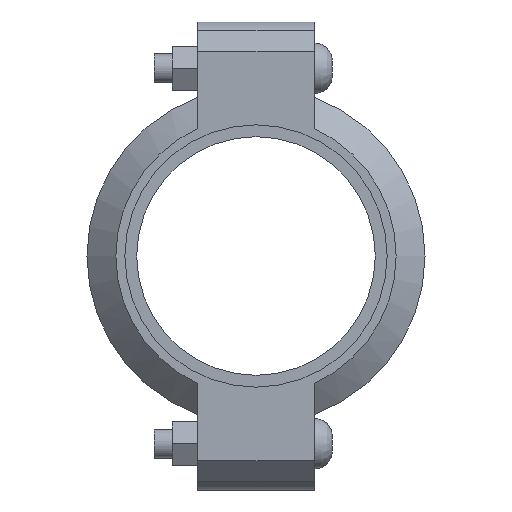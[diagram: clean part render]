
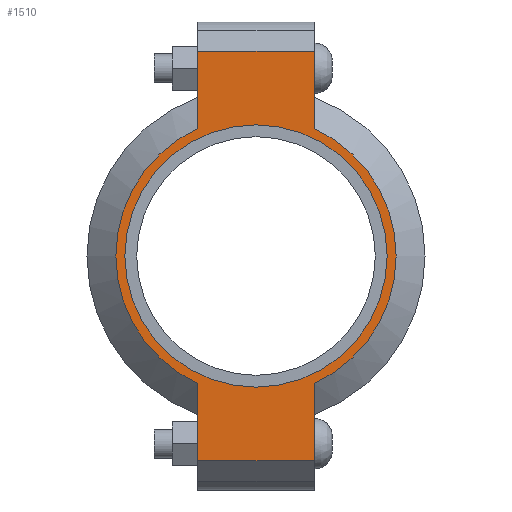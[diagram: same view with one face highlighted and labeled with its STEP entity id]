
A CAD part, left-side view. The second image highlights one B-rep face of the part: STEP entity #1510.
In plain terms, the highlighted planar face has unit normal (-1, 0, 0) as drawn and (0, 0, 1) by its records, which use the part's own axes.
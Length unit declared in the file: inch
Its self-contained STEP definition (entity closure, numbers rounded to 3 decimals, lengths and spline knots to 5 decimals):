
#134=LINE('',#2644,#227);
#142=LINE('',#2680,#235);
#149=LINE('',#2701,#242);
#158=LINE('',#2733,#251);
#159=LINE('',#2737,#252);
#160=LINE('',#2739,#253);
#227=VECTOR('',#2164,0.3937);
#235=VECTOR('',#2180,0.3937);
#242=VECTOR('',#2199,0.3937);
#251=VECTOR('',#2224,0.3937);
#252=VECTOR('',#2229,0.3937);
#253=VECTOR('',#2230,0.3937);
#309=FACE_BOUND('',#487,.T.);
#381=FACE_OUTER_BOUND('',#486,.T.);
#486=EDGE_LOOP('',(#1251,#1252,#1253,#1254,#1255,#1256,#1257,#1258));
#487=EDGE_LOOP('',(#1259));
#559=CIRCLE('',#1738,2.25);
#585=CIRCLE('',#1797,2.405);
#586=CIRCLE('',#1798,2.405);
#651=VERTEX_POINT('',#2460);
#694=VERTEX_POINT('',#2641);
#695=VERTEX_POINT('',#2643);
#706=VERTEX_POINT('',#2675);
#707=VERTEX_POINT('',#2679);
#714=VERTEX_POINT('',#2698);
#715=VERTEX_POINT('',#2700);
#725=VERTEX_POINT('',#2736);
#726=VERTEX_POINT('',#2738);
#807=EDGE_CURVE('',#651,#651,#559,.T.);
#868=EDGE_CURVE('',#695,#694,#134,.T.);
#882=EDGE_CURVE('',#707,#706,#142,.T.);
#892=EDGE_CURVE('',#715,#714,#149,.T.);
#907=EDGE_CURVE('',#707,#694,#158,.T.);
#908=EDGE_CURVE('',#706,#715,#585,.T.);
#909=EDGE_CURVE('',#725,#714,#159,.T.);
#910=EDGE_CURVE('',#725,#726,#160,.T.);
#911=EDGE_CURVE('',#726,#695,#586,.T.);
#1251=ORIENTED_EDGE('',*,*,#907,.F.);
#1252=ORIENTED_EDGE('',*,*,#882,.T.);
#1253=ORIENTED_EDGE('',*,*,#908,.T.);
#1254=ORIENTED_EDGE('',*,*,#892,.T.);
#1255=ORIENTED_EDGE('',*,*,#909,.F.);
#1256=ORIENTED_EDGE('',*,*,#910,.T.);
#1257=ORIENTED_EDGE('',*,*,#911,.T.);
#1258=ORIENTED_EDGE('',*,*,#868,.T.);
#1259=ORIENTED_EDGE('',*,*,#807,.T.);
#1352=PLANE('',#1796);
#1510=ADVANCED_FACE('',(#381,#309),#1352,.T.);
#1738=AXIS2_PLACEMENT_3D('',#2462,#2040,#2041);
#1796=AXIS2_PLACEMENT_3D('',#2734,#2225,#2226);
#1797=AXIS2_PLACEMENT_3D('',#2735,#2227,#2228);
#1798=AXIS2_PLACEMENT_3D('',#2740,#2231,#2232);
#2040=DIRECTION('center_axis',(0.,0.,-1.));
#2041=DIRECTION('ref_axis',(1.,0.,0.));
#2164=DIRECTION('',(1.,0.,0.));
#2180=DIRECTION('',(-1.,0.,0.));
#2199=DIRECTION('',(-1.,0.,0.));
#2224=DIRECTION('',(0.,-1.,0.));
#2225=DIRECTION('center_axis',(0.,0.,1.));
#2226=DIRECTION('ref_axis',(-1.,0.,0.));
#2227=DIRECTION('center_axis',(0.,0.,1.));
#2228=DIRECTION('ref_axis',(1.,0.,0.));
#2229=DIRECTION('',(0.,1.,0.));
#2230=DIRECTION('',(1.,0.,0.));
#2231=DIRECTION('center_axis',(0.,0.,1.));
#2232=DIRECTION('ref_axis',(1.,0.,0.));
#2460=CARTESIAN_POINT('',(-2.25,0.,1.065));
#2462=CARTESIAN_POINT('Origin',(0.,0.,1.065));
#2641=CARTESIAN_POINT('',(3.515,-1.,1.065));
#2643=CARTESIAN_POINT('',(2.18724,-1.,1.065));
#2644=CARTESIAN_POINT('',(4.015,-1.,1.065));
#2675=CARTESIAN_POINT('',(2.18724,1.,1.065));
#2679=CARTESIAN_POINT('',(3.515,1.,1.065));
#2680=CARTESIAN_POINT('',(-4.015,1.,1.065));
#2698=CARTESIAN_POINT('',(-3.515,1.,1.065));
#2700=CARTESIAN_POINT('',(-2.18724,1.,1.065));
#2701=CARTESIAN_POINT('',(-4.015,1.,1.065));
#2733=CARTESIAN_POINT('',(3.515,-0.5,1.065));
#2734=CARTESIAN_POINT('Origin',(0.,0.,
1.065));
#2735=CARTESIAN_POINT('Origin',(0.,0.,1.065));
#2736=CARTESIAN_POINT('',(-3.515,-1.,1.065));
#2737=CARTESIAN_POINT('',(-3.515,0.5,1.065));
#2738=CARTESIAN_POINT('',(-2.18724,-1.,1.065));
#2739=CARTESIAN_POINT('',(4.015,-1.,1.065));
#2740=CARTESIAN_POINT('Origin',(0.,0.,1.065));
